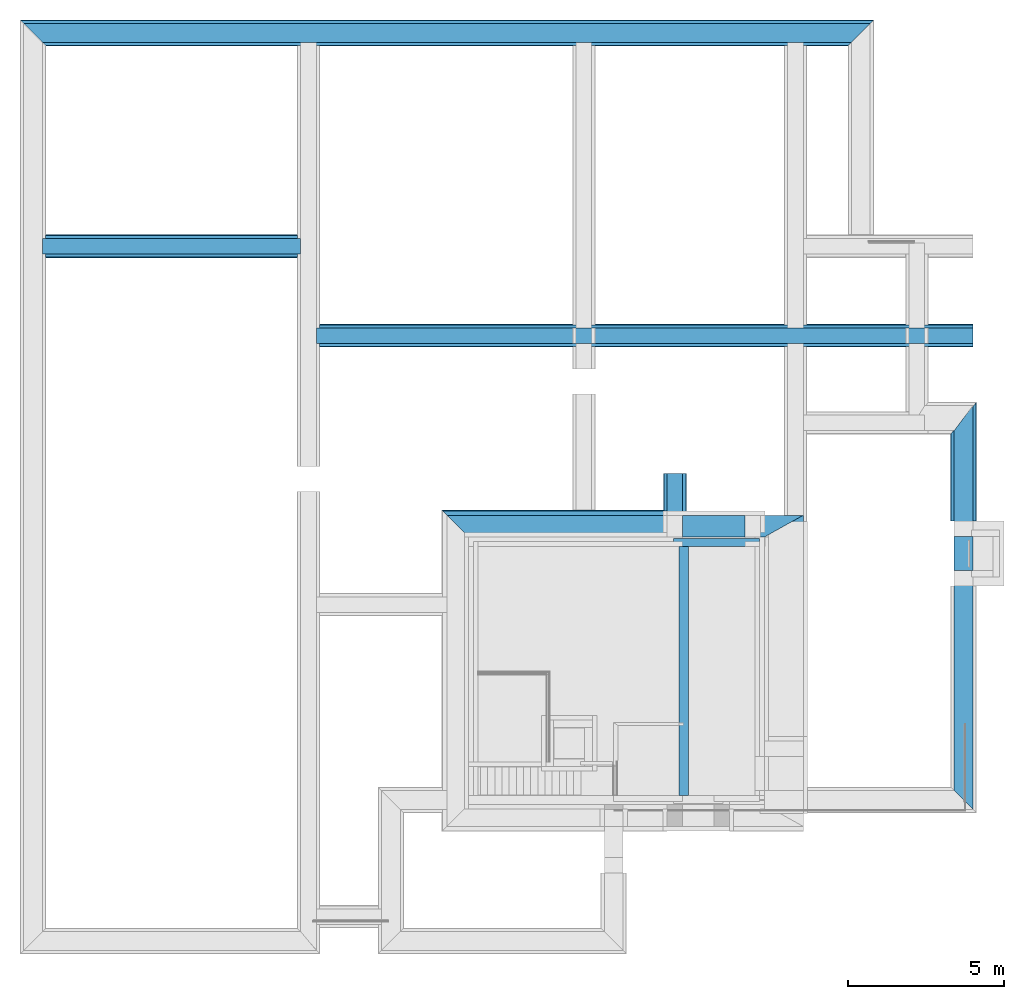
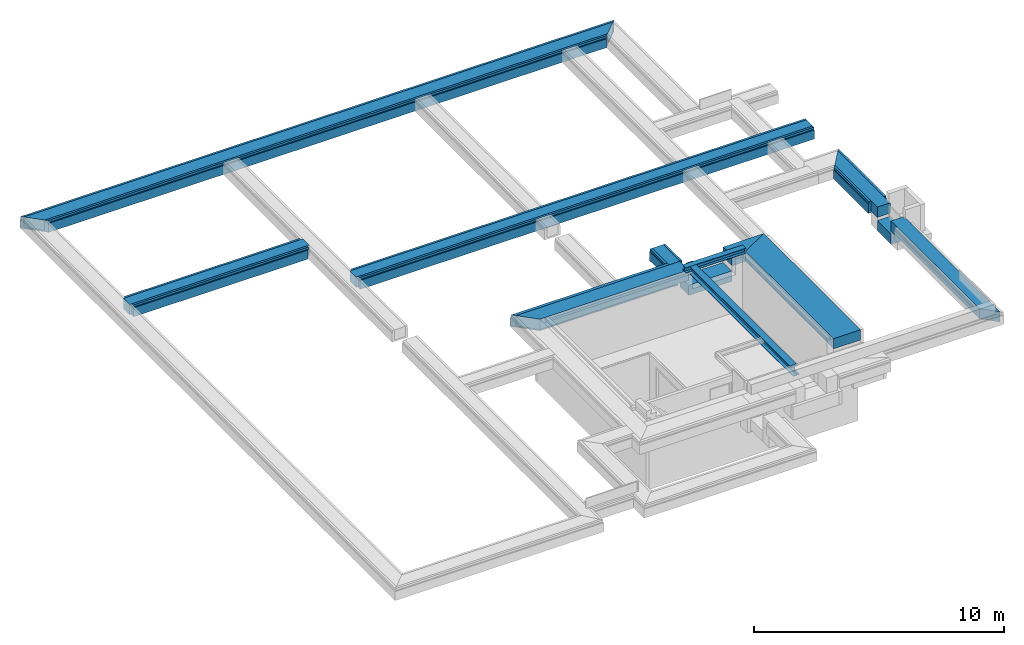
# One storey, part 3 of 11: 19 beams.
"""IFC2X3 building model written with IfcOpenShell, lengths in millimetres."""

from ifc_helpers import new_model, entity, si_unit, converted_unit, derived_unit, money_unit, direction, frame, origin_with_axes, place, context, subcontext, project, spatial, faceted_brep, material, type_object, element, save


model = new_model("IFC2X3")

# Units and contexts
model_context = context("Model", 3, precision=0.01, world=origin_with_axes(), true_north=direction((0.0, 1.0)))
body_context = subcontext(model_context, "Body", "Model", "MODEL_VIEW")
ifc_project = project(units=[si_unit("LENGTHUNIT", "METRE", prefix="MILLI"), si_unit("AREAUNIT", "SQUARE_METRE"), si_unit("VOLUMEUNIT", "CUBIC_METRE"), converted_unit("PLANEANGLEUNIT", "DEGREE", entity("IfcPlaneAngleMeasure", 0.0174532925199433), si_unit("PLANEANGLEUNIT", "RADIAN"), dimensions=[0, 0, 0, 0, 0, 0, 0]), money_unit("EUR"), converted_unit("TIMEUNIT", "Year", entity("IfcTimeMeasure", 31556926.0), si_unit("TIMEUNIT", "SECOND"), dimensions=[0, 0, 1, 0, 0, 0, 0]), si_unit("MASSUNIT", "GRAM", prefix="KILO"), si_unit("THERMODYNAMICTEMPERATUREUNIT", "DEGREE_CELSIUS"), si_unit("LUMINOUSINTENSITYUNIT", "LUMEN"), si_unit("ENERGYUNIT", "JOULE", prefix="MEGA"), derived_unit("THERMALCONDUCTANCEUNIT", [(si_unit("POWERUNIT", "WATT"), 1), (si_unit("LENGTHUNIT", "METRE"), -1), (si_unit("THERMODYNAMICTEMPERATUREUNIT", "KELVIN"), -1)]), derived_unit("SPECIFICHEATCAPACITYUNIT", [(si_unit("ENERGYUNIT", "JOULE"), 1), (si_unit("MASSUNIT", "GRAM", prefix="KILO"), -1), (si_unit("THERMODYNAMICTEMPERATUREUNIT", "KELVIN"), -1)]), derived_unit("MASSDENSITYUNIT", [(si_unit("MASSUNIT", "GRAM", prefix="KILO"), 1), (si_unit("VOLUMEUNIT", "CUBIC_METRE"), -1)])], contexts=[model_context])

# Site, building, storey
site_placement = place(None, origin_with_axes())
site = spatial("IfcSite", under=ifc_project, at=site_placement, Name="Site", CompositionType="ELEMENT")
building_placement = place(site_placement, origin_with_axes())
building = spatial("IfcBuilding", under=site, at=building_placement, Name="Naam gebouw", CompositionType="ELEMENT")
storey_placement = place(building_placement, frame((0.0, 0.0, -3060.0), z_axis=(0.0, 0.0, 1.0), x_axis=(1.0, 0.0, 0.0)))
storey = spatial("IfcBuildingStorey", under=building, at=storey_placement, Name="Kelder", CompositionType="ELEMENT", Elevation=-3060.0)

# Beams
ifc_material_1 = material(Name="Beton gewapend C")
beam_type_1 = type_object("IfcBeamType", Name="16 Fundering - betonbalk 600 x 500", PredefinedType="BEAM")
beam_1_placement = place(storey_placement, frame((0.0, 29175.00000000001, 2575.0), z_axis=(0.0, 0.0, 1.0), x_axis=(0.0, -1.0, 0.0)))
element("IfcBeam", 1, at=beam_1_placement, inside=storey, type_object=beam_type_1, material=ifc_material_1, Name="f2- Met cement gebonden producten (alle vulmiddelen)_Regenwaterafvoer-x", ObjectType="BEAM", context=body_context, shape_type="Brep", body=[
    faceted_brep([(-300.0000000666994, -300.0000000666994, -500.0000000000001), (-300.0000000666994, 26900.00000006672, -500.0000000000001), (300.0000000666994, 26299.99999993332, -500.0000000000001), (300.0000000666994, 300.0000000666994, -500.0000000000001), (-300.0000000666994, -300.0000000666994, 0.0), (-300.0000000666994, 26900.00000006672, 0.0), (300.0000000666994, 26299.99999993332, 0.0), (300.0000000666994, 300.0000000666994, 0.0)], [[[0, 1, 2, 3]], [[4, 5, 1, 0]], [[2, 1, 5, 6]], [[3, 2, 6, 7]], [[4, 0, 3, 7]], [[7, 6, 5, 4]]]),
])
beam_2_placement = place(storey_placement, frame((29900.00000000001, 16749.99766957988, 2575.0), z_axis=(0.0, 0.0, 1.0), x_axis=(-1.0, 0.0, 0.0)))
element("IfcBeam", 2, at=beam_2_placement, inside=storey, type_object=beam_type_1, material=ifc_material_1, Name="f2- Met cement gebonden producten (alle vulmiddelen)_Regenwaterafvoer-x", ObjectType="BEAM", context=body_context, shape_type="Brep", body=[
    faceted_brep([(-300.000000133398, -450.000168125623, -500.0000000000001), (-300.000000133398, 3749.99988791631, -500.0000000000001), (300.000000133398, 3749.99988791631, -500.0000000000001), (300.000000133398, 350.0001681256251, -500.0000000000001), (-300.000000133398, -450.000168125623, 0.0), (-300.000000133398, 3749.99988791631, 0.0), (300.000000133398, 3749.99988791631, 0.0), (300.000000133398, 350.0001681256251, 0.0)], [[[0, 1, 2, 3]], [[4, 5, 1, 0]], [[2, 1, 5, 6]], [[3, 2, 6, 7]], [[4, 0, 3, 7]], [[7, 6, 5, 4]]]),
])
beam_3_placement = place(storey_placement, frame((29900.00000000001, 12999.99778166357, 1925.0), z_axis=(0.0, 0.0, 1.0), x_axis=(-1.0, 0.0, 0.0)))
element("IfcBeam", 3, at=beam_3_placement, inside=storey, type_object=beam_type_1, material=ifc_material_1, Name="f2- Met cement gebonden producten (alle vulmiddelen)_Regenwaterafvoer-x", ObjectType="BEAM", context=body_context, shape_type="Brep", body=[
    faceted_brep([(-300.0000000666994, 0.0, -500.0), (-300.0000000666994, 1100.0, -500.0), (300.0000000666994, 1100.0, -500.0), (300.0000000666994, 0.0, -500.0), (-300.0000000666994, 0.0, 0.0), (-300.0000000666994, 1100.0, 0.0), (300.0000000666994, 1100.0, 0.0), (300.0000000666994, 0.0, 0.0)], [[[0, 1, 2, 3]], [[4, 5, 1, 0]], [[2, 1, 5, 6]], [[3, 2, 6, 7]], [[4, 0, 3, 7]], [[7, 6, 5, 4]]]),
])
beam_4_placement = place(storey_placement, frame((29900.00000000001, 11899.99778166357, 2575.0), z_axis=(0.0, 0.0, 1.0), x_axis=(-1.0, 0.0, 0.0)))
element("IfcBeam", 4, at=beam_4_placement, inside=storey, type_object=beam_type_1, material=ifc_material_1, Name="f2- Met cement gebonden producten (alle vulmiddelen)_Regenwaterafvoer-x", ObjectType="BEAM", context=body_context, shape_type="Brep", body=[
    faceted_brep([(-300.0000000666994, 0.0, -500.0000000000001), (-300.0000000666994, 7669.997781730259, -500.0000000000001), (300.0000000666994, 7069.99778159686, -500.0000000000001), (300.0000000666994, 0.0, -500.0000000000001), (-300.0000000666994, 0.0, 0.0), (-300.0000000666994, 7669.997781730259, 0.0), (300.0000000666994, 7069.99778159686, 0.0), (300.0000000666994, 0.0, 0.0)], [[[0, 1, 2, 3]], [[4, 5, 1, 0]], [[2, 1, 5, 6]], [[3, 2, 6, 7]], [[4, 0, 3, 7]], [[7, 6, 5, 4]]]),
])
beam_type_2 = type_object("IfcBeamType", Name="16 Fundering - betonbalk 500 x 500", PredefinedType="BEAM")
beam_5_placement = place(storey_placement, frame((8850.000000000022, 19449.9998112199, 2575.0), z_axis=(0.0, 0.0, 1.0), x_axis=(0.0, -1.0, 0.0)))
element("IfcBeam", 5, at=beam_5_placement, inside=storey, type_object=beam_type_2, material=ifc_material_1, Name="f2- Met cement gebonden producten (alle vulmiddelen)_Regenwaterafvoer-x", ObjectType="BEAM", context=body_context, shape_type="Brep", body=[
    faceted_brep([(-250.0, 21350.00001903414, -500.0000000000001), (-250.0, 250.0000000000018, -500.0000000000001), (-250.0, 250.0000000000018, 0.0), (-250.0, 21350.00001903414, 0.0), (250.0, 21350.00001903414, -500.0000000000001), (250.0, 250.0000000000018, -500.0000000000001), (250.0, 250.0000000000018, 0.0), (250.0, 21350.00001903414, 0.0)], [[[0, 1, 2, 3]], [[4, 5, 1, 0]], [[5, 6, 2, 1]], [[3, 2, 6, 7]], [[3, 7, 4, 0]], [[7, 6, 5, 4]]]),
])
beam_6_placement = place(storey_placement, frame((8850.000000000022, 22324.97621406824, 2575.0), z_axis=(0.0, 0.0, 1.0), x_axis=(0.0, 1.0, 0.0)))
element("IfcBeam", 6, at=beam_6_placement, inside=storey, type_object=beam_type_2, material=ifc_material_1, Name="f2- Met cement gebonden producten (alle vulmiddelen)_Regenwaterafvoer-x", ObjectType="BEAM", context=body_context, shape_type="Brep", body=[
    faceted_brep([(250.0, 250.0, -500.0000000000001), (250.0, 8549.999999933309, -500.0000000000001), (250.0, 8549.999999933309, 0.0), (250.0, 250.0, 0.0), (-250.0, 250.0, -500.0000000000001), (-250.0, 8549.999999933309, -500.0000000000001), (-250.0, 8549.999999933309, 0.0), (-250.0, 250.0, 0.0)], [[[0, 1, 2, 3]], [[4, 5, 1, 0]], [[5, 6, 2, 1]], [[3, 2, 6, 7]], [[7, 4, 0, 3]], [[7, 6, 5, 4]]]),
])
beam_7_placement = place(storey_placement, frame((20625.00005289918, 15024.99762917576, 2575.0), z_axis=(0.0, 0.0, 1.0), x_axis=(-1.0, 0.0, 0.0)))
element("IfcBeam", 7, at=beam_7_placement, inside=storey, type_object=beam_type_2, material=ifc_material_1, Name="f2- Met cement gebonden producten (alle vulmiddelen)_Regenwaterafvoer-x", ObjectType="BEAM", context=body_context, shape_type="Brep", body=[
    faceted_brep([(250.0, 0.0, 0.0), (250.0, 1344.997618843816, 0.0), (-250.0, 1344.997618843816, 0.0), (-250.0, 0.0, 0.0), (250.0, 0.0, -500.0000000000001), (250.0, 1344.997618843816, -500.0000000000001), (-250.0, 1344.997618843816, -500.0000000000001), (-250.0, 0.0, -500.0000000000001)], [[[0, 1, 2, 3]], [[4, 5, 1, 0]], [[5, 6, 2, 1]], [[3, 2, 6, 7]], [[4, 0, 3, 7]], [[7, 6, 5, 4]]]),
])
ifc_material_2 = material(Name="Isolatie - Kunststof hard")
beam_type_3 = type_object("IfcBeamType", Name="16 Fundering - EPS kist 600x500 840 x 570", PredefinedType="BEAM")
beam_8_placement = place(storey_placement, frame((0.0, 29175.0, 2575.0), z_axis=(0.0, 0.0, 1.0), x_axis=(0.0, -1.0, 0.0)))
element("IfcBeam", 8, at=beam_8_placement, inside=storey, type_object=beam_type_3, material=ifc_material_2, Name="n7 Kunststof met cellenstructuur_Regenwaterafvoer-x", ObjectType="BEAM", context=body_context, shape_type="Brep", body=[
    faceted_brep([(-300.0000000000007, -299.9999999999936, -500.0000000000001), (-300.0000000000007, 26900.00000000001, -500.0000000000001), (-300.0000000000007, 26900.00000000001, 0.0), (-300.0000000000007, -299.9999999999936, 0.0), (300.0000000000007, 300.0000000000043, -500.0000000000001), (299.9999999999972, 26300.00000000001, -500.0000000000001), (299.9999999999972, 26300.00000000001, 0.0), (399.9999999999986, 26200.00000000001, 0.0), (399.9999999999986, 26200.00000000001, -101.434286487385), (419.9999999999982, 26180.00000000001, -130.935084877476), (419.9999999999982, 26180.00000000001, -570.0000000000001), (-420.0000000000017, 27020.00000000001, -570.0000000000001), (-420.0000000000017, 27020.00000000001, -130.9350848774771), (-400.0000000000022, 27000.00000000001, -101.4342864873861), (-400.0000000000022, 27000.00000000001, 0.0), (-399.9999999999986, -399.9999999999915, 0.0), (-399.9999999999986, -399.9999999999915, -101.4342864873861), (-419.9999999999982, -419.9999999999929, -130.9350848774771), (-420.0000000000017, -419.9999999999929, -570.0000000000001), (420.0000000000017, 420.0000000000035, -570.0000000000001), (420.0000000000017, 420.0000000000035, -130.935084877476), (399.9999999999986, 400.000000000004, -101.434286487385), (399.9999999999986, 400.000000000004, 0.0), (300.0000000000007, 300.0000000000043, 0.0)], [[[0, 1, 2, 3]], [[4, 5, 1, 0]], [[2, 1, 5, 6, 7, 8, 9, 10, 11, 12, 13, 14]], [[3, 2, 14, 15]], [[4, 0, 3, 15, 16, 17, 18, 19, 20, 21, 22, 23]], [[23, 6, 5, 4]], [[22, 7, 6, 23]], [[21, 8, 7, 22]], [[20, 9, 8, 21]], [[19, 10, 9, 20]], [[18, 11, 10, 19]], [[17, 12, 11, 18]], [[16, 13, 12, 17]], [[15, 14, 13, 16]]]),
])
beam_9_placement = place(storey_placement, frame((29899.99999999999, 16749.99778166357, 2575.0), z_axis=(0.0, 0.0, 1.0), x_axis=(-1.0, 0.0, 0.0)))
element("IfcBeam", 9, at=beam_9_placement, inside=storey, type_object=beam_type_3, material=ifc_material_2, Name="n7 Kunststof met cellenstructuur_Regenwaterafvoer-x", ObjectType="BEAM", context=body_context, shape_type="Brep", body=[
    faceted_brep([(-300.0000000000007, -421.4285746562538, -500.0000000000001), (-300.0000000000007, 3250.0, -500.0000000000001), (-300.0000000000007, 3250.0, 0.0), (-300.0000000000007, -421.4285746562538, 0.0), (300.0000000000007, 321.4285746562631, -500.0000000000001), (300.0000000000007, 3249.999999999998, -500.0000000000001), (300.0000000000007, 3249.999999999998, 0.0), (399.9999999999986, 3249.999999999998, 0.0), (399.9999999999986, 3249.999999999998, -101.434286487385), (419.9999999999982, 3249.999999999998, -130.935084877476), (419.9999999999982, 3249.999999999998, -570.0000000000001), (-420.0000000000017, 3250.0, -570.0000000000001), (-419.9999999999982, 3250.0, -130.9350848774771), (-399.9999999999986, 3250.0, -101.4342864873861), (-399.9999999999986, 3250.0, 0.0), (-399.9999999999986, -545.2380995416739, 0.0), (-399.9999999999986, -545.2380995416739, -101.4342864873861), (-419.9999999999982, -570.0000045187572, -130.9350848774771), (-419.9999999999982, -570.0000045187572, -570.0000000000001), (419.9999999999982, 470.0000045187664, -570.0000000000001), (419.9999999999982, 470.0000045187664, -130.935084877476), (399.9999999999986, 445.2380995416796, -101.434286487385), (399.9999999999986, 445.2380995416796, 0.0), (300.0000000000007, 321.4285746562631, 0.0)], [[[0, 1, 2, 3]], [[4, 5, 1, 0]], [[2, 1, 5, 6, 7, 8, 9, 10, 11, 12, 13, 14]], [[3, 2, 14, 15]], [[4, 0, 3, 15, 16, 17, 18, 19, 20, 21, 22, 23]], [[23, 6, 5, 4]], [[22, 7, 6, 23]], [[21, 8, 7, 22]], [[20, 9, 8, 21]], [[19, 10, 9, 20]], [[18, 11, 10, 19]], [[17, 12, 11, 18]], [[16, 13, 12, 17]], [[15, 14, 13, 16]]]),
])
beam_type_4 = type_object("IfcBeamType", Name="16 Fundering - EPS kist 500x500 740 x 570", PredefinedType="BEAM")
beam_10_placement = place(storey_placement, frame((8850.000000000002, 19449.9998112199, 2575.0), z_axis=(0.0, 0.0, 1.0), x_axis=(0.0, -1.0, 0.0)))
element("IfcBeam", 10, at=beam_10_placement, inside=storey, type_object=beam_type_4, material=ifc_material_2, Name="n7 Kunststof met cellenstructuur_Regenwaterafvoer-x", ObjectType="BEAM", context=body_context, shape_type="Brep", body=[
    faceted_brep([(-370.000000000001, 21350.00001903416, -570.0000000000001), (-370.000000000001, 370.0000000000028, -570.0000000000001), (-370.000000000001, 370.0000000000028, -130.9350866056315), (-370.000000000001, 21350.00001903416, -130.9350848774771), (369.9999999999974, 21350.00001903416, -570.0000000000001), (370.000000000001, 370.0000000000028, -570.0000000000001), (-250.0, 370.0000000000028, -130.9350866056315), (370.000000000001, 370.0000000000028, -130.9350866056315), (250.0, 370.0000000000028, -130.9350866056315), (250.0, 370.0000000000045, -500.0000000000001), (-250.0, 370.0000000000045, -500.0000000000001), (-349.9999999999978, 350.0000038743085, -101.4342843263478), (-350.0000000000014, 21350.00001903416, -101.4342864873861), (-350.0000000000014, 21350.00001903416, 0.0), (-250.0, 21350.00001903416, 0.0), (-250.0, 21350.00001903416, -500.0000000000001), (250.0, 21350.00001903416, -500.0000000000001), (250.0, 21350.00001903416, 0.0), (349.9999999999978, 21350.00001903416, 0.0), (349.9999999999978, 21350.00001903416, -101.434286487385), (369.9999999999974, 21350.00001903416, -130.935084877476), (-250.0, 350.0000038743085, -101.4342843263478), (350.0000000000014, 350.0000038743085, -101.4342843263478), (250.0, 350.0000038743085, -101.4342843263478), (250.0, 350.0000038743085, 5.364423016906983e-06), (-250.0, 350.0000038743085, 5.364423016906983e-06), (-349.9999999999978, 350.0000038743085, 5.364423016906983e-06), (350.0000000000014, 350.0000038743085, 5.364423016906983e-06)], [[[0, 1, 2, 3]], [[4, 5, 1, 0]], [[6, 2, 1, 5, 7, 8, 9, 10]], [[3, 2, 11, 12]], [[12, 13, 14, 15, 16, 17, 18, 19, 20, 4, 0, 3]], [[20, 7, 5, 4]], [[21, 11, 2, 6]], [[22, 23, 8, 7]], [[8, 23, 24, 17, 16, 9]], [[15, 10, 9, 16]], [[21, 6, 10, 15, 14, 25]], [[12, 11, 26, 13]], [[13, 26, 25, 14]], [[17, 24, 27, 18]], [[18, 27, 22, 19]], [[19, 22, 7, 20]], [[21, 25, 26, 11]], [[22, 27, 24, 23]]]),
])
beam_11_placement = place(storey_placement, frame((8850.000000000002, 22324.97621406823, 2575.0), z_axis=(0.0, 0.0, 1.0), x_axis=(0.0, 1.0, 0.0)))
element("IfcBeam", 11, at=beam_11_placement, inside=storey, type_object=beam_type_4, material=ifc_material_2, Name="n7 Kunststof met cellenstructuur_Regenwaterafvoer-x", ObjectType="BEAM", context=body_context, shape_type="Brep", body=[
    faceted_brep([(370.000000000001, 369.9999999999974, -570.0000000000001), (370.000000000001, 8430.00000000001, -570.0000000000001), (370.000000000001, 8430.00000000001, -130.935088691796), (370.000000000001, 369.9999999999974, -130.9350866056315), (-370.000000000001, 369.9999999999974, -570.0000000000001), (-370.0000000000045, 8430.00000000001, -570.0000000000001), (250.0, 8430.00000000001, -130.935088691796), (-370.0000000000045, 8430.00000000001, -130.935088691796), (-250.0, 8430.00000000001, -130.935088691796), (-250.0, 8430.00000000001, -500.0000000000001), (250.0, 8430.00000000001, -500.0000000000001), (350.0000000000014, 8450.000005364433, -101.4342893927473), (350.0000000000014, 350.0000038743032, -101.4342843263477), (-370.000000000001, 369.9999999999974, -130.9350866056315), (250.0, 369.9999999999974, -130.9350866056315), (250.0, 369.9999999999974, -500.0000000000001), (-250.0, 369.9999999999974, -500.0000000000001), (-250.0, 369.9999999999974, -130.9350866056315), (250.0, 8450.000005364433, -101.4342893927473), (-349.9999999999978, 8450.000005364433, -101.4342893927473), (-250.0, 8450.000005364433, -101.4342893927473), (-250.0, 8450.000005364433, -3.576282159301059e-06), (-250.0, 350.0000038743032, 5.364423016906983e-06), (-250.0, 350.0000038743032, -101.4342843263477), (250.0, 350.0000038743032, -101.4342843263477), (250.0, 350.0000038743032, 5.364423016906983e-06), (250.0, 8450.000005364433, -3.576282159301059e-06), (350.0000000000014, 8450.000005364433, -3.576282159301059e-06), (350.0000000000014, 350.0000038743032, 5.364423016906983e-06), (-349.9999999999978, 350.0000038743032, -101.4342843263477), (-349.9999999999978, 8450.000005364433, -3.576282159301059e-06), (-349.9999999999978, 350.0000038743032, 5.364423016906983e-06)], [[[0, 1, 2, 3]], [[4, 5, 1, 0]], [[6, 2, 1, 5, 7, 8, 9, 10]], [[3, 2, 11, 12]], [[13, 4, 0, 3, 14, 15, 16, 17]], [[13, 7, 5, 4]], [[18, 11, 2, 6]], [[19, 20, 8, 7]], [[8, 20, 21, 22, 23, 17, 16, 9]], [[15, 10, 9, 16]], [[18, 6, 10, 15, 14, 24, 25, 26]], [[12, 11, 27, 28]], [[24, 14, 3, 12]], [[29, 13, 17, 23]], [[29, 19, 7, 13]], [[18, 26, 27, 11]], [[19, 30, 21, 20]], [[22, 21, 30, 31]], [[31, 29, 23, 22]], [[25, 24, 12, 28]], [[28, 27, 26, 25]], [[31, 30, 19, 29]]]),
])
beam_12_placement = place(storey_placement, frame((20625.00005289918, 15024.99762917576, 2575.0), z_axis=(0.0, 0.0, 1.0), x_axis=(-1.0, 0.0, 0.0)))
element("IfcBeam", 12, at=beam_12_placement, inside=storey, type_object=beam_type_4, material=ifc_material_2, Name="n7 Kunststof met cellenstructuur_Regenwaterafvoer-x", ObjectType="BEAM", context=body_context, shape_type="Brep", body=[
    faceted_brep([(250.0, 0.0, 0.0), (249.9999999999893, 1204.997629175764, 0.0), (249.9999999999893, 1204.997629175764, -101.4342864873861), (249.9999999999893, 1176.997629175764, -130.9350848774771), (249.9999999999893, 1176.997629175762, -500.0000000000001), (250.0, 0.0, -500.0000000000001), (350.0000000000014, 0.0, 0.0), (350.0000000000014, 1204.997629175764, 0.0), (350.0000000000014, 1204.997629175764, -101.4342864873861), (370.000000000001, 1176.997629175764, -130.9350848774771), (249.9999999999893, 1176.997629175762, -570.0000000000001), (370.000000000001, 1176.997629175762, -570.0000000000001), (249.9999999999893, 1344.997629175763, -500.0000000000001), (-250.0, 1344.997573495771, -500.0000000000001), (-250.0, 0.0, -500.0000000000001), (-250.0, 0.0, 0.0), (-349.9999999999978, 0.0, 0.0), (-349.9999999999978, 0.0, -101.4342864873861), (-369.9999999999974, 0.0, -130.9350848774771), (-370.000000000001, 0.0, -570.0000000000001), (370.000000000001, 0.0, -570.0000000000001), (370.000000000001, 0.0, -130.935084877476), (350.0000000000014, 0.0, -101.434286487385), (249.9999999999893, 1344.997573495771, -570.0000000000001), (-370.000000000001, 1344.997573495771, -570.0000000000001), (-369.9999999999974, 1344.997573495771, -130.9350848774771), (-349.9999999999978, 1344.997573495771, -101.4342864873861), (-349.9999999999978, 1344.997573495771, 0.0), (-250.0, 1344.997573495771, 0.0)], [[[0, 1, 2, 3, 4, 5]], [[6, 7, 1, 0]], [[8, 2, 1, 7]], [[9, 3, 2, 8]], [[10, 4, 3, 9, 11]], [[5, 4, 12, 13, 14]], [[0, 5, 14, 15, 16, 17, 18, 19, 20, 21, 22, 6]], [[22, 8, 7, 6]], [[21, 9, 8, 22]], [[23, 12, 4, 10]], [[20, 11, 9, 21]], [[23, 10, 11, 20, 19, 24]], [[13, 12, 23, 24, 25, 26, 27, 28]], [[15, 14, 13, 28]], [[16, 15, 28, 27]], [[17, 16, 27, 26]], [[18, 17, 26, 25]], [[19, 18, 25, 24]]]),
])
ifc_material_3 = material(Name="Metaal - Staal C")
beam_type_5 = type_object("IfcBeamType", Name="HEB360 300 x 360", PredefinedType="BEAM")
beam_13_placement = place(storey_placement, frame((20909.99793409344, 12980.0, 2780.0), z_axis=(0.0, 0.0, 1.0), x_axis=(-1.0, 0.0, 0.0)))
element("IfcBeam", 13, at=beam_13_placement, inside=storey, type_object=beam_type_5, material=ifc_material_3, Name="h METAAL_Regenwaterafvoer-x", ObjectType="BEAM", context=body_context, shape_type="Brep", body=[
    faceted_brep([(149.9999999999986, 0.0, 180.0), (149.9999999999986, 40.0000000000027, 179.9999999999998), (-149.9999999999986, 40.0000000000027, 179.9999999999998), (-149.9999999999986, 0.0, 180.0), (150.0000044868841, 165.0000000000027, 162.4999999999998), (150.0000044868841, 40.0000000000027, 162.4999999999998), (149.9999999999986, 0.0, 157.5), (150.0000000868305, 165.0000000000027, 157.5), (-149.9999999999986, 40.0000000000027, 162.4999999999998), (-149.9999999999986, 165.0000000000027, 162.4999999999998), (-149.9999999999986, 165.0000000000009, 157.5), (-149.9999999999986, 0.0, 157.5), (6.250000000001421, 0.0, -157.5), (6.250000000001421, 0.0, 157.5), (-6.250000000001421, 0.0, 157.5), (-6.250000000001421, 0.0, -157.5), (-149.9999999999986, 0.0, -157.5), (-149.9999999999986, 0.0, -180.0), (149.9999999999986, 0.0, -180.0), (149.9999999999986, 0.0, -157.5), (6.250000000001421, 165.0000000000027, 157.5), (-6.250000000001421, 165.0000000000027, 157.5), (6.249999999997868, 165.0000000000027, -62.50000000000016), (-6.250000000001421, 165.0000000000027, -62.50000000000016), (6.249999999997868, 40.0000000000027, -62.50000000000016), (6.249999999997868, 8560.000011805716, -157.5), (6.249999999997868, 8560.00000910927, -80.00000000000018), (6.249999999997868, 8300.000009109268, -80.00000000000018), (6.249999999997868, 8300.000009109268, -62.50000000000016), (6.249999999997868, 8425.000009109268, -62.50000000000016), (6.249999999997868, 8425.00000910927, 157.5), (6.250000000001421, 175.0000000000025, 157.5), (6.249999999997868, 175.0000000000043, -62.50000000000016), (6.249999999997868, 300.0000000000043, -62.50000000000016), (6.249999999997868, 300.0000000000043, -80.00000000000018), (6.249999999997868, 40.0000000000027, -80.00000000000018), (-6.250000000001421, 300.0000000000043, -62.50000000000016), (-6.250000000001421, 175.0000000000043, -62.50000000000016), (-6.250000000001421, 175.0000000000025, 157.5), (-6.250000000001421, 8425.000009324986, 157.5), (-6.250000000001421, 8425.000009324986, -62.50000000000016), (-6.250000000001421, 8300.000009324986, -62.50000000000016), (-6.250000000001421, 8300.000009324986, -80.00000000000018), (-6.250000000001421, 8560.000009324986, -80.00000000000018), (-6.250000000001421, 8560.000011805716, -157.5), (-6.250000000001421, 40.0000000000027, -62.50000000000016), (-6.250000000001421, 40.0000000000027, -80.00000000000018), (-6.250000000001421, 300.0000000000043, -80.00000000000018), (-150.0000000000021, 8560.000011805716, -157.5), (-150.0000000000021, 8560.000011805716, -180.0), (149.9999999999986, 8560.000011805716, -180.0), (149.9999999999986, 8560.000011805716, -157.5), (-149.9999999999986, 8425.000011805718, 157.5), (-149.9999999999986, 8425.000011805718, 162.4999999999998), (150.0000044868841, 8425.00000662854, 162.4999999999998), (150.0000044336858, 8425.00000662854, 157.4999999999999), (150.000000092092, 175.0000000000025, 157.5), (150.0000044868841, 175.0000000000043, 162.4999999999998), (-149.9999999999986, 175.0000000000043, 162.4999999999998), (-149.9999999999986, 175.0000000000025, 157.5), (-149.9999999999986, 300.0000000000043, 162.4999999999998), (-149.9999999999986, 300.0000000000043, 179.9999999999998), (-150.0000000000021, 8300.000011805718, 179.9999999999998), (-149.9999999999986, 8300.000011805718, 162.4999999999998), (150.0000044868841, 8300.00000662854, 162.4999999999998), (150.0000044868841, 300.0000000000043, 162.4999999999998), (149.9999999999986, 8300.00000662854, 179.9999999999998), (149.9999999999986, 300.0000000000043, 179.9999999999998)], [[[0, 1, 2, 3]], [[4, 5, 1, 0, 6, 7]], [[5, 8, 2, 1]], [[8, 9, 10, 11, 3, 2]], [[12, 13, 6, 0, 3, 11, 14, 15, 16, 17, 18, 19]], [[4, 9, 8, 5]], [[13, 20, 7, 6]], [[21, 10, 9, 4, 7, 20, 22, 23]], [[11, 10, 21, 14]], [[24, 22, 20, 13, 12, 25, 26, 27, 28, 29, 30, 31, 32, 33, 34, 35]], [[36, 37, 38, 39, 40, 41, 42, 43, 44, 15, 14, 21, 23, 45, 46, 47]], [[44, 48, 16, 15]], [[48, 49, 17, 16]], [[49, 50, 18, 17]], [[50, 51, 19, 18]], [[51, 25, 12, 19]], [[24, 45, 23, 22]], [[48, 44, 43, 26, 25, 51, 50, 49]], [[27, 26, 43, 42]], [[28, 27, 42, 41]], [[29, 28, 41, 40]], [[40, 39, 52, 53, 54, 55, 30, 29]], [[55, 56, 31, 30]], [[57, 58, 59, 38, 37, 32, 31, 56]], [[32, 37, 36, 33]], [[33, 36, 47, 34]], [[34, 47, 46, 35]], [[35, 46, 45, 24]], [[39, 38, 59, 52]], [[58, 60, 61, 62, 63, 53, 52, 59]], [[64, 54, 53, 63]], [[65, 57, 56, 55, 54, 64, 66, 67]], [[65, 60, 58, 57]], [[65, 67, 61, 60]], [[62, 61, 67, 66]], [[66, 64, 63, 62]]]),
])
beam_type_6 = type_object("IfcBeamType", Name="16 Fundering - betonbalk 1250 x 500", PredefinedType="BEAM")
beam_14_placement = place(storey_placement, frame((23500.00000000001, 12980.0, 2575.0), z_axis=(0.0, 0.0, 1.0), x_axis=(-1.0, 0.0, 0.0)))
element("IfcBeam", 14, at=beam_14_placement, inside=storey, type_object=beam_type_6, material=ifc_material_1, Name="f2- Met cement gebonden producten (alle vulmiddelen)_Regenwaterafvoer-x", ObjectType="BEAM", context=body_context, shape_type="Brep", body=[
    faceted_brep([(-1250.0, -700.0000103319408, -500.0000000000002), (-1250.0, 7049.999999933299, -500.0000000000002), (0.0, 7049.999999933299, -500.0000000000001), (0.0, 1.03319468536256e-05, -500.0000000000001), (-1250.0, -700.0000103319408, 0.0), (-1250.0, 7049.999999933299, 0.0), (0.0, 7049.999999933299, 0.0), (0.0, 1.03319468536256e-05, 0.0)], [[[0, 1, 2, 3]], [[4, 5, 1, 0]], [[2, 1, 5, 6]], [[3, 2, 6, 7]], [[4, 0, 3, 7]], [[7, 6, 5, 4]]]),
])
beam_type_7 = type_object("IfcBeamType", Name="16 Fundering - betonbalk 700 x 500", PredefinedType="BEAM")
beam_15_placement = place(storey_placement, frame((14000.00000000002, 12980.0, 2575.0), z_axis=(0.0, 0.0, 1.0), x_axis=(0.0, -1.0, 0.0)))
element("IfcBeam", 15, at=beam_15_placement, inside=storey, type_object=beam_type_7, material=ifc_material_1, Name="f2- Met cement gebonden producten (alle vulmiddelen)_Regenwaterafvoer-x", ObjectType="BEAM", context=body_context, shape_type="Brep", body=[
    faceted_brep([(-700.0000103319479, -700.0000103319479, -500.0000000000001), (-700.0000103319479, 6875.000052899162, -500.0000000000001), (1.03319468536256e-05, 6875.000052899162, -500.0000000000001), (1.03319468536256e-05, 1.03319468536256e-05, -500.0000000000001), (-700.0000103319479, -700.0000103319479, 0.0), (-700.0000103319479, 6875.000052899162, 0.0), (1.03319468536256e-05, 6875.000052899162, 0.0), (1.03319468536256e-05, 1.03319468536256e-05, 0.0)], [[[0, 1, 2, 3]], [[4, 5, 1, 0]], [[2, 1, 5, 6]], [[3, 2, 6, 7]], [[4, 0, 3, 7]], [[7, 6, 5, 4]]]),
])
beam_16_placement = place(storey_placement, frame((22875.00005289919, 12980.0, 2575.0), z_axis=(0.0, 0.0, 1.0), x_axis=(0.0, -1.0, 0.0)))
element("IfcBeam", 16, at=beam_16_placement, inside=storey, type_object=beam_type_7, material=ifc_material_1, Name="f2- Met cement gebonden producten (alle vulmiddelen)_Regenwaterafvoer-x", ObjectType="BEAM", context=body_context, shape_type="Brep", body=[
    faceted_brep([(-700.0000103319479, 0.0, -500.0000000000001), (-700.0000103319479, 1874.999947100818, -500.0000000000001), (1.03319468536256e-05, 624.9999471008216, -500.0000000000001), (1.03319468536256e-05, 0.0, -500.0000000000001), (-700.0000103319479, 0.0, 0.0), (-700.0000103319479, 1874.999947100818, 0.0), (1.03319468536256e-05, 624.9999471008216, 0.0), (1.03319468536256e-05, 0.0, 0.0)], [[[0, 1, 2, 3]], [[4, 5, 1, 0]], [[2, 1, 5, 6]], [[3, 2, 6, 7]], [[4, 0, 3, 7]], [[7, 6, 5, 4]]]),
])
beam_17_placement = place(storey_placement, frame((20875.00005289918, 12980.0, 1825.0), z_axis=(0.0, 0.0, 1.0), x_axis=(-2.831223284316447e-08, -0.9999999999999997, 0.0)))
element("IfcBeam", 17, at=beam_17_placement, inside=storey, type_object=beam_type_7, material=ifc_material_1, Name="f2- Met cement gebonden producten (alle vulmiddelen)_Regenwaterafvoer-x", ObjectType="BEAM", context=body_context, shape_type="Brep", body=[
    faceted_brep([(-700.0000103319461, 0.0, -500.0), (-700.0000103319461, 1999.999979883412, -500.0), (1.03319468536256e-05, 1999.999979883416, -500.0), (1.03319468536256e-05, 0.0, -500.0), (-700.0000103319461, 0.0, 0.0), (-700.0000103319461, 1999.999979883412, 0.0), (1.03319468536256e-05, 1999.999979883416, 0.0), (1.03319468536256e-05, 0.0, 0.0)], [[[0, 1, 2, 3]], [[4, 5, 1, 0]], [[2, 1, 5, 6]], [[3, 2, 6, 7]], [[4, 0, 3, 7]], [[7, 6, 5, 4]]]),
])
beam_type_8 = type_object("IfcBeamType", Name="16 Fundering - EPS kist 500x500 1036 x 570", PredefinedType="BEAM")
beam_18_placement = place(storey_placement, frame((13650.00000000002, 13330.0, 2575.0), z_axis=(0.0, 0.0, 1.0), x_axis=(0.0, -1.0, 0.0)))
element("IfcBeam", 18, at=beam_18_placement, inside=storey, type_object=beam_type_8, material=ifc_material_2, Name="n7 Kunststof met cellenstructuur_Regenwaterafvoer-x", ObjectType="BEAM", context=body_context, shape_type="Brep", body=[
    faceted_brep([(350.0000000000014, 349.9999999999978, -500.0), (350.0000000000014, 6725.000052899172, -500.0), (-349.9999999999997, 6725.000052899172, -500.0), (-349.9999999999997, -349.9999999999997, -500.0), (350.0000000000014, 6725.000052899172, -570.0000000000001), (350.0000000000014, 349.9999999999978, -570.0000000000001), (-518.0000000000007, 6725.000052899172, -570.0000000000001), (-517.9999999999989, 6725.000052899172, -130.9350848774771), (-489.9999999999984, 6725.000052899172, -101.4342864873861), (-489.9999999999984, 6725.000052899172, 0.0), (-349.9999999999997, 6725.000052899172, 0.0), (-349.9999999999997, -349.9999999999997, 0.0), (-489.9999999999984, -489.9999999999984, 0.0), (-489.9999999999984, -489.9999999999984, -101.4342864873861), (-517.9999999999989, -517.9999999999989, -130.9350848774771), (-518.0000000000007, -518.0000000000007, -570.0000000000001)], [[[0, 1, 2, 3]], [[4, 1, 0, 5]], [[1, 4, 6, 7, 8, 9, 10, 2]], [[10, 11, 3, 2]], [[5, 0, 3, 11, 12, 13, 14, 15]], [[4, 5, 15, 6]], [[6, 15, 14, 7]], [[7, 14, 13, 8]], [[8, 13, 12, 9]], [[9, 12, 11, 10]]]),
])
beam_type_9 = type_object("IfcBeamType", Name="HEB260 260 x 260", PredefinedType="BEAM")
beam_19_placement = place(storey_placement, frame((20575.0000528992, 12809.99999999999, 2830.0), z_axis=(0.0, 0.0, 1.0), x_axis=(0.0, -1.0, 0.0)))
element("IfcBeam", 19, at=beam_19_placement, inside=storey, type_object=beam_type_9, material=ifc_material_3, Name="h METAAL_Regenwaterafvoer-x", ObjectType="BEAM", context=body_context, shape_type="Brep", body=[
    faceted_brep([(-130.0000000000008, 0.0, 130.0), (-130.0000000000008, 2774.999947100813, 130.0), (-130.0000000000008, 2774.999947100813, 112.5), (-130.0000000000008, 0.0, 112.5), (130.0000000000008, 0.0, 130.0), (129.999999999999, 2774.999947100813, 130.0), (129.999999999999, 2774.999947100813, 112.5), (4.999999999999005, 2774.999947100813, 112.5), (4.999999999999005, 2774.999947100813, -112.5), (129.999999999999, 2774.999947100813, -112.5), (129.999999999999, 2774.999947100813, -130.0), (-130.0000000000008, 2774.999947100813, -130.0), (-130.0000000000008, 2774.999947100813, -112.5), (-5.000000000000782, 2774.999947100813, -112.5), (-5.000000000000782, 2774.999947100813, 112.5), (-5.000000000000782, 0.0, 112.5), (-5.000000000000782, 0.0, -112.5), (-130.0000000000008, 0.0, -112.5), (-130.0000000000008, 0.0, -130.0), (130.0000000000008, 0.0, -130.0), (130.0000000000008, 0.0, -112.5), (5.000000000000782, 0.0, -112.5), (5.000000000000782, 0.0, 112.5), (130.0000000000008, 0.0, 112.5)], [[[0, 1, 2, 3]], [[4, 5, 1, 0]], [[2, 1, 5, 6, 7, 8, 9, 10, 11, 12, 13, 14]], [[3, 2, 14, 15]], [[4, 0, 3, 15, 16, 17, 18, 19, 20, 21, 22, 23]], [[23, 6, 5, 4]], [[22, 7, 6, 23]], [[21, 8, 7, 22]], [[20, 9, 8, 21]], [[19, 10, 9, 20]], [[18, 11, 10, 19]], [[17, 12, 11, 18]], [[16, 13, 12, 17]], [[15, 14, 13, 16]]]),
])

save(model, "model.ifc")
